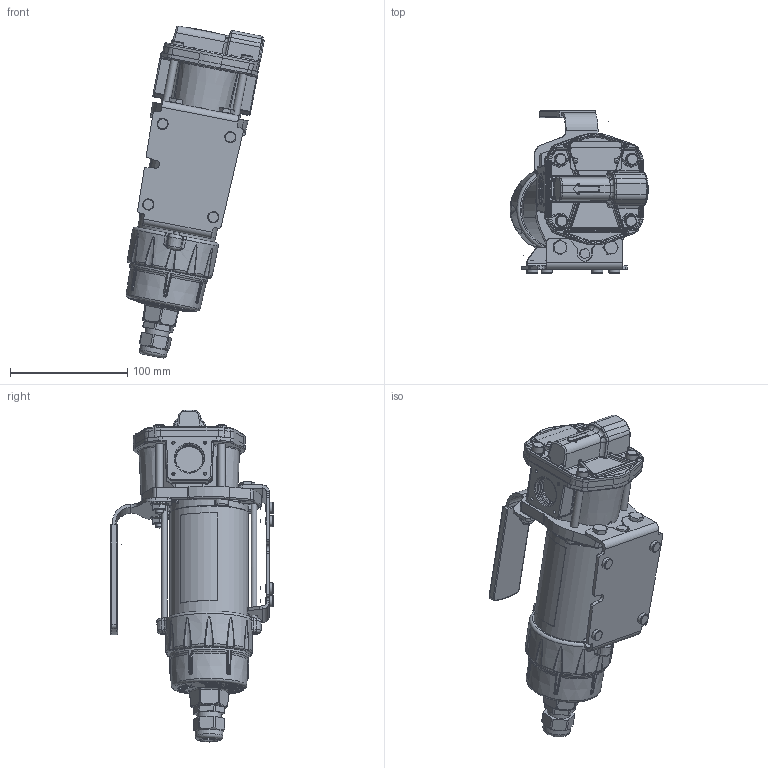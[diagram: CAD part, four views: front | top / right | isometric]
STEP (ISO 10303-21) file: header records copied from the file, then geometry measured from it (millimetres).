
FILE_DESCRIPTION(/* description */ (''),/* implementation_level */ '2;1');
FILE_NAME(/* name */ 'C:\Vault Projects\GPI Eng\New Projects\DHarris\Website model updates\STEP\G8P.stp',/* time_stamp */ '2022-07-18T12:33:31-05:00',/* author */ ('gdanhar'),/* organization */ (''),/* preprocessor_version */ 'ST-DEVELOPER v18.1',/* originating_system */ 'Autodesk Inventor 2022',/* authorisation */ '');
FILE_SCHEMA (('AUTOMOTIVE_DESIGN { 1 0 10303 214 3 1 1 }'));
Products named in the file (1): G8P
Bounding box: 122.84 x 138.29 x 282.57 mm (x, y, z)
Volume: 964665.3 mm3; surface area: 161546.6 mm2
Topology: 4 solids, 6 shells, 3484 faces, 8819 edges, 5465 vertices
Faces by surface type: plane 1269, bspline 1032, cylinder 548, cone 312, torus 230, sphere 93
Full cylindrical faces by diameter (mm): 0 x2, 0.001 x1, 4.064 x4, 4.318 x4, 4.826 x18, 4.923 x18, 6.35 x6, 9.525 x8, 10.001 x2, 11.887 x1, 14.834 x2, 18.237 x1, 19.05 x1, 20.32 x1, 23.571 x1, 66.675 x1
Entity records: 141346 total; most frequent: CARTESIAN_POINT 65452, ORIENTED_EDGE 17506, DIRECTION 12128, EDGE_CURVE 8755, VERTEX_POINT 5459, AXIS2_PLACEMENT_3D 4575, EDGE_LOOP 3686, FACE_OUTER_BOUND 3484
